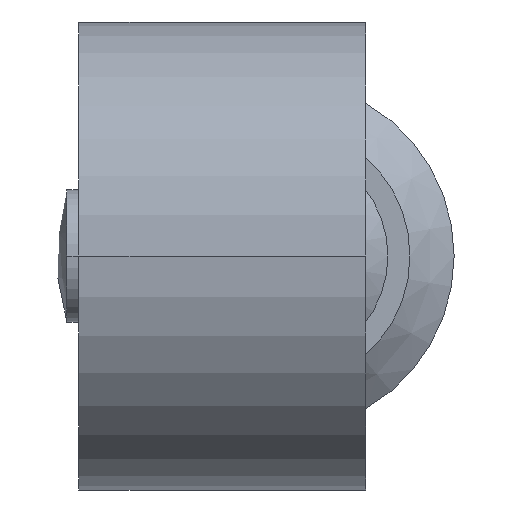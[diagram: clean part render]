
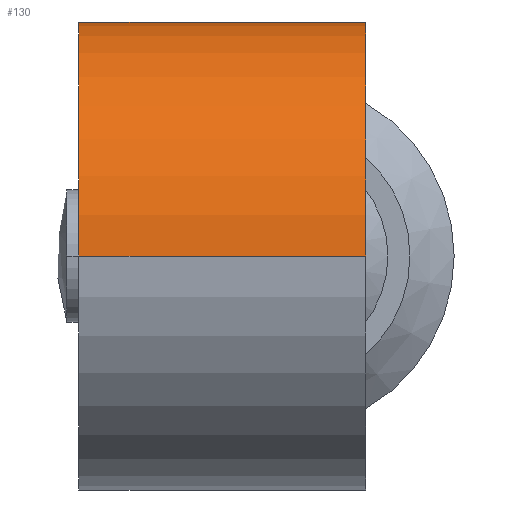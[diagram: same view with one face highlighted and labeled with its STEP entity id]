
A CAD part, left-side view. The second image highlights one B-rep face of the part: STEP entity #130.
In plain terms, the highlighted cylindrical face has radius 5.3 mm (diameter 10.6 mm), a partial arc.
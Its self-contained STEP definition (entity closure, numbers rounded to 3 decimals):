
#130=ADVANCED_FACE('',(#199),#200,.T.);
#199=FACE_OUTER_BOUND('',#329,.T.);
#200=CYLINDRICAL_SURFACE('',#330,5.3);
#329=EDGE_LOOP('',(#504,#505,#506,#507,#508,#509,#510,#511,#512));
#330=AXIS2_PLACEMENT_3D('',#513,#514,#515);
#504=ORIENTED_EDGE('',*,*,#935,.F.);
#505=ORIENTED_EDGE('',*,*,#936,.T.);
#506=ORIENTED_EDGE('',*,*,#937,.F.);
#507=ORIENTED_EDGE('',*,*,#938,.F.);
#508=ORIENTED_EDGE('',*,*,#939,.F.);
#509=ORIENTED_EDGE('',*,*,#940,.T.);
#510=ORIENTED_EDGE('',*,*,#941,.T.);
#511=ORIENTED_EDGE('',*,*,#942,.T.);
#512=ORIENTED_EDGE('',*,*,#943,.T.);
#513=CARTESIAN_POINT('',(0.0,3.25,0.0));
#514=DIRECTION('',(0.0,-1.0,0.0));
#515=DIRECTION('',(1.0,0.0,0.0));
#935=EDGE_CURVE('',#1103,#1104,#1105,.T.);
#936=EDGE_CURVE('',#1103,#1106,#1107,.T.);
#937=EDGE_CURVE('',#1108,#1106,#1109,.T.);
#938=EDGE_CURVE('',#1110,#1108,#1111,.T.);
#939=EDGE_CURVE('',#1112,#1110,#1113,.T.);
#940=EDGE_CURVE('',#1112,#1114,#1115,.T.);
#941=EDGE_CURVE('',#1114,#1116,#1117,.T.);
#942=EDGE_CURVE('',#1116,#1118,#1119,.T.);
#943=EDGE_CURVE('',#1118,#1104,#1120,.T.);
#1103=VERTEX_POINT('',#1334);
#1104=VERTEX_POINT('',#1335);
#1105=LINE('',#1336,#1337);
#1106=VERTEX_POINT('',#1338);
#1107=CIRCLE('',#1339,5.3);
#1108=VERTEX_POINT('',#1340);
#1109=LINE('',#1341,#1342);
#1110=VERTEX_POINT('',#1343);
#1111=CIRCLE('',#1344,5.3);
#1112=VERTEX_POINT('',#1345);
#1113=LINE('',#1346,#1347);
#1114=VERTEX_POINT('',#1348);
#1115=B_SPLINE_CURVE_WITH_KNOTS('',3,(#1349,#1350,#1351,#1352,#1353,#1354),.UNSPECIFIED.,.F.,.F.,(4,2,4),(0.581,0.629,0.662),.UNSPECIFIED.);
#1116=VERTEX_POINT('',#1355);
#1117=B_SPLINE_CURVE_WITH_KNOTS('',3,(#1356,#1357,#1358,#1359,#1360,#1361,#1362,#1363,#1364,#1365,#1366,#1367,#1368,#1369,#1370),.UNSPECIFIED.,.F.,.F.,(4,2,2,3,2,2,4),(-0.105,-0.095,-0.047,0.0,0.047,0.095,0.105),.UNSPECIFIED.);
#1118=VERTEX_POINT('',#1371);
#1119=B_SPLINE_CURVE_WITH_KNOTS('',3,(#1372,#1373,#1374,#1375,#1376,#1377,#1378,#1379,#1380,#1381,#1382,#1383,#1384,#1385,#1386),.UNSPECIFIED.,.F.,.F.,(4,2,2,3,2,2,4),(-0.105,-0.095,-0.047,0.0,0.047,0.095,0.105),.UNSPECIFIED.);
#1120=B_SPLINE_CURVE_WITH_KNOTS('',3,(#1387,#1388,#1389,#1390,#1391,#1392),.UNSPECIFIED.,.F.,.F.,(4,2,4),(0.112,0.148,0.194),.UNSPECIFIED.);
#1334=CARTESIAN_POINT('',(5.3,6.5,0.0));
#1335=CARTESIAN_POINT('',(5.3,3.188,0.0));
#1336=CARTESIAN_POINT('',(5.3,3.25,0.));
#1337=VECTOR('',#1682,1.0);
#1338=CARTESIAN_POINT('',(-5.3,6.5,0.));
#1339=AXIS2_PLACEMENT_3D('',#1683,#1684,#1685);
#1340=CARTESIAN_POINT('',(-5.3,0.0,0.));
#1341=CARTESIAN_POINT('',(-5.3,3.25,0.));
#1342=VECTOR('',#1686,1.0);
#1343=CARTESIAN_POINT('',(5.3,0.0,0.0));
#1344=AXIS2_PLACEMENT_3D('',#1687,#1688,#1689);
#1345=CARTESIAN_POINT('',(5.3,0.812,0.));
#1346=CARTESIAN_POINT('',(5.3,3.25,0.));
#1347=VECTOR('',#1690,1.0);
#1348=CARTESIAN_POINT('',(5.238,1.047,0.809));
#1349=CARTESIAN_POINT('',(5.3,0.812,0.));
#1350=CARTESIAN_POINT('',(5.3,0.812,0.158));
#1351=CARTESIAN_POINT('',(5.292,0.838,0.329));
#1352=CARTESIAN_POINT('',(5.267,0.931,0.603));
#1353=CARTESIAN_POINT('',(5.253,0.984,0.712));
#1354=CARTESIAN_POINT('',(5.238,1.047,0.809));
#1355=CARTESIAN_POINT('',(5.219,2.844,0.922));
#1356=CARTESIAN_POINT('',(5.238,1.047,0.809));
#1357=CARTESIAN_POINT('',(5.234,1.069,0.835));
#1358=CARTESIAN_POINT('',(5.23,1.092,0.86));
#1359=CARTESIAN_POINT('',(5.207,1.227,0.995));
#1360=CARTESIAN_POINT('',(5.187,1.367,1.091));
#1361=CARTESIAN_POINT('',(5.158,1.675,1.218));
#1362=CARTESIAN_POINT('',(5.15,1.842,1.25));
#1363=CARTESIAN_POINT('',(5.15,2.0,1.25));
#1364=CARTESIAN_POINT('',(5.15,2.158,1.25));
#1365=CARTESIAN_POINT('',(5.158,2.325,1.218));
#1366=CARTESIAN_POINT('',(5.187,2.633,1.091));
#1367=CARTESIAN_POINT('',(5.207,2.773,0.995));
#1368=CARTESIAN_POINT('',(5.23,2.908,0.86));
#1369=CARTESIAN_POINT('',(5.234,2.931,0.835));
#1370=CARTESIAN_POINT('',(5.238,2.953,0.809));
#1371=CARTESIAN_POINT('',(5.238,2.953,0.809));
#1372=CARTESIAN_POINT('',(5.238,1.047,0.809));
#1373=CARTESIAN_POINT('',(5.234,1.069,0.835));
#1374=CARTESIAN_POINT('',(5.23,1.092,0.86));
#1375=CARTESIAN_POINT('',(5.207,1.227,0.995));
#1376=CARTESIAN_POINT('',(5.187,1.367,1.091));
#1377=CARTESIAN_POINT('',(5.158,1.675,1.218));
#1378=CARTESIAN_POINT('',(5.15,1.842,1.25));
#1379=CARTESIAN_POINT('',(5.15,2.0,1.25));
#1380=CARTESIAN_POINT('',(5.15,2.158,1.25));
#1381=CARTESIAN_POINT('',(5.158,2.325,1.218));
#1382=CARTESIAN_POINT('',(5.187,2.633,1.091));
#1383=CARTESIAN_POINT('',(5.207,2.773,0.995));
#1384=CARTESIAN_POINT('',(5.23,2.908,0.86));
#1385=CARTESIAN_POINT('',(5.234,2.931,0.835));
#1386=CARTESIAN_POINT('',(5.238,2.953,0.809));
#1387=CARTESIAN_POINT('',(5.238,2.953,0.809));
#1388=CARTESIAN_POINT('',(5.254,3.018,0.708));
#1389=CARTESIAN_POINT('',(5.268,3.074,0.593));
#1390=CARTESIAN_POINT('',(5.293,3.164,0.317));
#1391=CARTESIAN_POINT('',(5.3,3.188,0.153));
#1392=CARTESIAN_POINT('',(5.3,3.188,0.));
#1682=DIRECTION('',(0.0,-1.0,0.0));
#1683=CARTESIAN_POINT('',(0.0,6.5,0.0));
#1684=DIRECTION('',(0.0,-1.0,0.0));
#1685=DIRECTION('',(1.0,0.0,0.0));
#1686=DIRECTION('',(0.0,1.0,0.0));
#1687=CARTESIAN_POINT('',(0.0,0.0,0.0));
#1688=DIRECTION('',(0.0,-1.0,0.0));
#1689=DIRECTION('',(1.0,0.0,0.0));
#1690=DIRECTION('',(0.0,-1.0,0.0));
